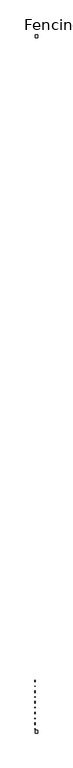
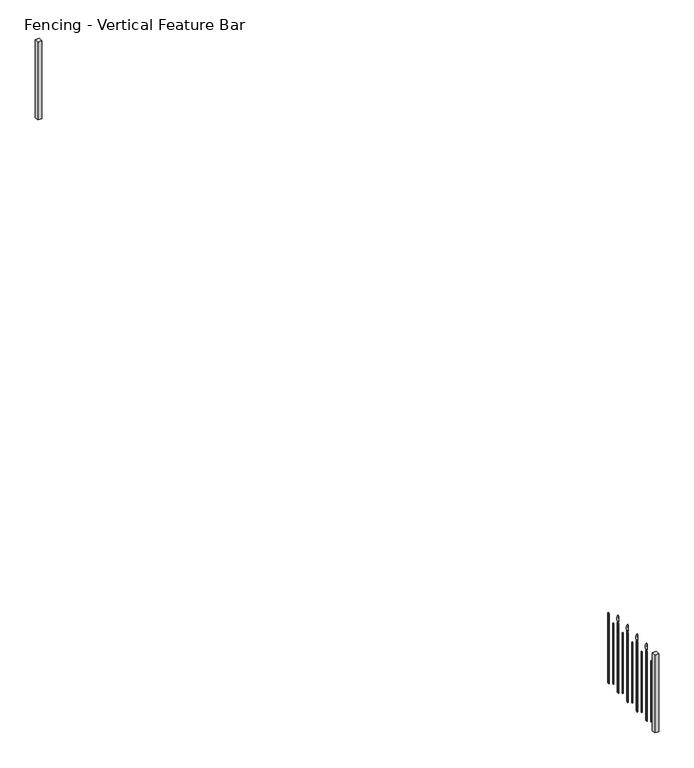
"""IFC4 building model written with IfcOpenShell, lengths in millimetres: railing geometry, Fencing - Vertical Feature Bar."""

from ifc_helpers import new_model, si_unit, point, frame, frame_2d, origin, origin_with_axes, place, context, project, spatial, polyline, circle_curve, trimmed, segment, composite_curve, outline, extrude, source, transform, mapped, element, save


def fencing_vertical_feature_bar_09844041(model_context):
    return source(origin(), model_context, "Body", "SweptSolid", [
        extrude(outline(polyline([(46170.9324334, -55516.5868221), (46175.9324334, -55516.5868221), (46175.9324334, -55541.5868221), (46170.9324334, -55541.5868221), (46170.9324334, -55516.5868221)])), frame((0.0, 0.0, 50.0), z_axis=(0.0, 0.0, 1.0), x_axis=(1.0, 0.0, 0.0)), (0.0, 0.0, 1.0), 900.0),
        extrude(outline(polyline([(46177.4324334, -55633.0868221), (46169.4324334, -55633.0868221), (46169.4324334, -55625.0868221), (46177.4324334, -55625.0868221), (46177.4324334, -55633.0868221)])), frame((0.0, 0.0, 100.0), z_axis=(0.0, 0.0, 1.0), x_axis=(1.0, 0.0, 0.0)), (0.0, 0.0, 1.0), 780.0),
        extrude(outline(composite_curve([segment(polyline([(-55731.9450079, 950.0), (-55731.9450079, 955.0)]), True, "CONTINUOUS"), segment(trimmed(circle_curve(frame_2d((-55678.8047438, 998.5697142)), 68.7183212), [point((-55731.9450079, 955.0))], [point((-55729.0868221, 1045.4090168))], False, "CARTESIAN"), True, "CONTINUOUS"), segment(trimmed(circle_curve(frame_2d((-55779.3689003, 998.5697142)), 68.7183212), [point((-55729.0868221, 1045.4090168))], [point((-55726.2286362, 955.0))], False, "CARTESIAN"), True, "CONTINUOUS"), segment(polyline([(-55726.2286362, 955.0), (-55726.2286362, 950.0), (-55731.9450079, 950.0)]), True, "CONTINUOUS")], self_intersect=False)), frame((46170.9324334, 0.0, 0.0), z_axis=(1.0, 0.0, 0.0), x_axis=(0.0, 1.0, 0.0)), (0.0, 0.0, 1.0), 5.0),
        extrude(outline(polyline([(46170.9324334, -55716.5868221), (46175.9324334, -55716.5868221), (46175.9324334, -55741.5868221), (46170.9324334, -55741.5868221), (46170.9324334, -55716.5868221)])), frame((0.0, 0.0, 50.0), z_axis=(0.0, 0.0, 1.0), x_axis=(1.0, 0.0, 0.0)), (0.0, 0.0, 1.0), 900.0),
        extrude(outline(polyline([(46177.4324334, -55833.0868221), (46169.4324334, -55833.0868221), (46169.4324334, -55825.0868221), (46177.4324334, -55825.0868221), (46177.4324334, -55833.0868221)])), frame((0.0, 0.0, 100.0), z_axis=(0.0, 0.0, 1.0), x_axis=(1.0, 0.0, 0.0)), (0.0, 0.0, 1.0), 780.0),
        extrude(outline(composite_curve([segment(polyline([(-55931.9450079, 950.0), (-55931.9450079, 955.0)]), True, "CONTINUOUS"), segment(trimmed(circle_curve(frame_2d((-55878.8047438, 998.5697142)), 68.7183212), [point((-55931.9450079, 955.0))], [point((-55929.0868221, 1045.4090168))], False, "CARTESIAN"), True, "CONTINUOUS"), segment(trimmed(circle_curve(frame_2d((-55979.3689003, 998.5697142)), 68.7183212), [point((-55929.0868221, 1045.4090168))], [point((-55926.2286362, 955.0))], False, "CARTESIAN"), True, "CONTINUOUS"), segment(polyline([(-55926.2286362, 955.0), (-55926.2286362, 950.0), (-55931.9450079, 950.0)]), True, "CONTINUOUS")], self_intersect=False)), frame((46170.9324334, 0.0, 0.0), z_axis=(1.0, 0.0, 0.0), x_axis=(0.0, 1.0, 0.0)), (0.0, 0.0, 1.0), 5.0),
        extrude(outline(polyline([(46170.9324334, -55916.5868221), (46175.9324334, -55916.5868221), (46175.9324334, -55941.5868221), (46170.9324334, -55941.5868221), (46170.9324334, -55916.5868221)])), frame((0.0, 0.0, 50.0), z_axis=(0.0, 0.0, 1.0), x_axis=(1.0, 0.0, 0.0)), (0.0, 0.0, 1.0), 900.0),
        extrude(outline(polyline([(46177.4324334, -56033.0868221), (46169.4324334, -56033.0868221), (46169.4324334, -56025.0868221), (46177.4324334, -56025.0868221), (46177.4324334, -56033.0868221)])), frame((0.0, 0.0, 100.0), z_axis=(0.0, 0.0, 1.0), x_axis=(1.0, 0.0, 0.0)), (0.0, 0.0, 1.0), 780.0),
        extrude(outline(composite_curve([segment(polyline([(-56131.9450079, 950.0), (-56131.9450079, 955.0)]), True, "CONTINUOUS"), segment(trimmed(circle_curve(frame_2d((-56078.8047438, 998.5697142)), 68.7183212), [point((-56131.9450079, 955.0))], [point((-56129.0868221, 1045.4090168))], False, "CARTESIAN"), True, "CONTINUOUS"), segment(trimmed(circle_curve(frame_2d((-56179.3689003, 998.5697142)), 68.7183212), [point((-56129.0868221, 1045.4090168))], [point((-56126.2286362, 955.0))], False, "CARTESIAN"), True, "CONTINUOUS"), segment(polyline([(-56126.2286362, 955.0), (-56126.2286362, 950.0), (-56131.9450079, 950.0)]), True, "CONTINUOUS")], self_intersect=False)), frame((46170.9324334, 0.0, 0.0), z_axis=(1.0, 0.0, 0.0), x_axis=(0.0, 1.0, 0.0)), (0.0, 0.0, 1.0), 5.0),
        extrude(outline(polyline([(46170.9324334, -56116.5868221), (46175.9324334, -56116.5868221), (46175.9324334, -56141.5868221), (46170.9324334, -56141.5868221), (46170.9324334, -56116.5868221)])), frame((0.0, 0.0, 50.0), z_axis=(0.0, 0.0, 1.0), x_axis=(1.0, 0.0, 0.0)), (0.0, 0.0, 1.0), 900.0),
        extrude(outline(polyline([(46177.4324334, -56233.0868221), (46169.4324334, -56233.0868221), (46169.4324334, -56225.0868221), (46177.4324334, -56225.0868221), (46177.4324334, -56233.0868221)])), frame((0.0, 0.0, 100.0), z_axis=(0.0, 0.0, 1.0), x_axis=(1.0, 0.0, 0.0)), (0.0, 0.0, 1.0), 780.0),
        extrude(outline(composite_curve([segment(polyline([(-56331.9450079, 950.0), (-56331.9450079, 955.0)]), True, "CONTINUOUS"), segment(trimmed(circle_curve(frame_2d((-56278.8047438, 998.5697142)), 68.7183212), [point((-56331.9450079, 955.0))], [point((-56329.0868221, 1045.4090168))], False, "CARTESIAN"), True, "CONTINUOUS"), segment(trimmed(circle_curve(frame_2d((-56379.3689003, 998.5697142)), 68.7183212), [point((-56329.0868221, 1045.4090168))], [point((-56326.2286362, 955.0))], False, "CARTESIAN"), True, "CONTINUOUS"), segment(polyline([(-56326.2286362, 955.0), (-56326.2286362, 950.0), (-56331.9450079, 950.0)]), True, "CONTINUOUS")], self_intersect=False)), frame((46170.9324334, 0.0, 0.0), z_axis=(1.0, 0.0, 0.0), x_axis=(0.0, 1.0, 0.0)), (0.0, 0.0, 1.0), 5.0),
        extrude(outline(polyline([(46170.9324334, -56316.5868221), (46175.9324334, -56316.5868221), (46175.9324334, -56341.5868221), (46170.9324334, -56341.5868221), (46170.9324334, -56316.5868221)])), frame((0.0, 0.0, 50.0), z_axis=(0.0, 0.0, 1.0), x_axis=(1.0, 0.0, 0.0)), (0.0, 0.0, 1.0), 900.0),
        extrude(outline(polyline([(46177.4324334, -56433.0868221), (46169.4324334, -56433.0868221), (46169.4324334, -56425.0868221), (46177.4324334, -56425.0868221), (46177.4324334, -56433.0868221)])), frame((0.0, 0.0, 100.0), z_axis=(0.0, 0.0, 1.0), x_axis=(1.0, 0.0, 0.0)), (0.0, 0.0, 1.0), 780.0),
        extrude(outline(polyline([(46223.4324334, -43504.0868221), (46173.4324334, -43504.0868221), (46173.4324334, -43454.0868221), (46223.4324334, -43454.0868221), (46223.4324334, -43504.0868221)])), origin_with_axes(), (0.0, 0.0, 1.0), 1000.0),
        extrude(outline(polyline([(46223.4324334, -56504.0868221), (46173.4324334, -56504.0868221), (46173.4324334, -56454.0868221), (46223.4324334, -56454.0868221), (46223.4324334, -56504.0868221)])), origin_with_axes(), (0.0, 0.0, 1.0), 1000.0),
    ])


if __name__ == "__main__":
    model = new_model("IFC4")
    model_context = context("Model", 3, world=origin())
    ifc_project = project(units=[si_unit("LENGTHUNIT", "METRE", prefix="MILLI")], contexts=[model_context])
    site = spatial("IfcSite", under=ifc_project)
    building = spatial("IfcBuilding", under=site)
    placement = place(None, origin())
    fencing_vertical_feature_bar_shape = fencing_vertical_feature_bar_09844041(model_context)
    element("IfcRailing", 1, ObjectType="Fencing - Vertical Feature Bar", at=placement, inside=building, context=model_context, shape_type="MappedRepresentation", body=[
        mapped(fencing_vertical_feature_bar_shape, transform((0.0, 0.0, 0.0), x_axis=(1.0, 0.0, 0.0), y_axis=(0.0, 1.0, 0.0), z_axis=(0.0, 0.0, 1.0))),
    ])
    save(model, "model.ifc")
